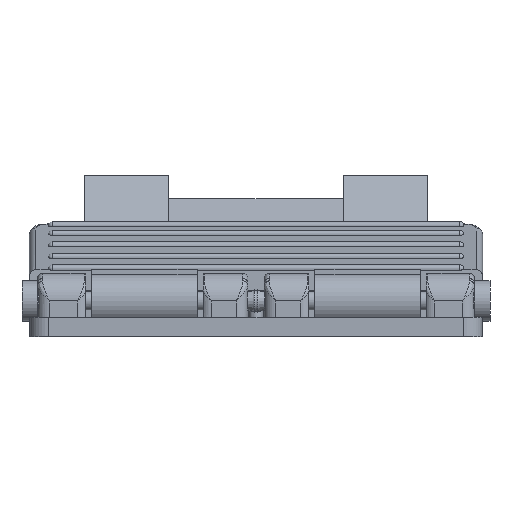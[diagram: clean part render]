
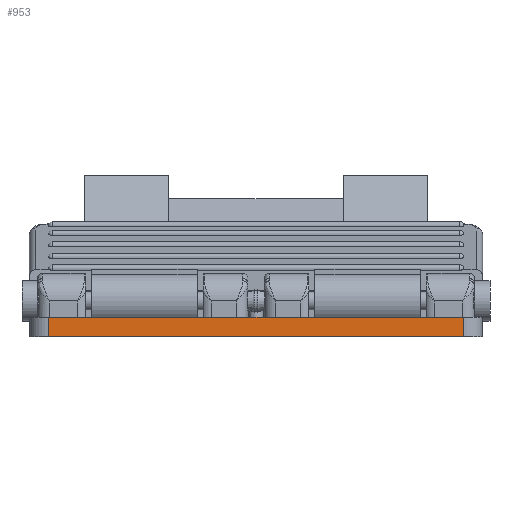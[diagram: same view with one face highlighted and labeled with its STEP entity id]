
A CAD part, front view. The second image highlights one B-rep face of the part: STEP entity #953.
In plain terms, the highlighted planar face has unit normal (0, -1, 0).
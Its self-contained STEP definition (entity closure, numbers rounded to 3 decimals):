
#63 = VERTEX_POINT('',#64);
#64 = CARTESIAN_POINT('',(-224.25,-120.,-7.25));
#71 = EDGE_CURVE('',#63,#72,#74,.T.);
#72 = VERTEX_POINT('',#73);
#73 = CARTESIAN_POINT('',(-160.25,-120.,-7.25));
#74 = LINE('',#75,#76);
#75 = CARTESIAN_POINT('',(-227.25,-120.,-7.25));
#76 = VECTOR('',#77,1.);
#77 = DIRECTION('',(1.,0.,-0.));
#588 = VERTEX_POINT('',#589);
#589 = CARTESIAN_POINT('',(-224.25,-120.,-10.25));
#596 = EDGE_CURVE('',#588,#597,#599,.T.);
#597 = VERTEX_POINT('',#598);
#598 = CARTESIAN_POINT('',(-160.25,-120.,-10.25));
#599 = LINE('',#600,#601);
#600 = CARTESIAN_POINT('',(-227.25,-120.,-10.25));
#601 = VECTOR('',#602,1.);
#602 = DIRECTION('',(1.,0.,-0.));
#910 = EDGE_CURVE('',#588,#63,#911,.T.);
#911 = LINE('',#912,#913);
#912 = CARTESIAN_POINT('',(-224.25,-120.,-10.25));
#913 = VECTOR('',#914,1.);
#914 = DIRECTION('',(0.,0.,1.));
#953 = ADVANCED_FACE('',(#954),#965,.F.);
#954 = FACE_BOUND('',#955,.F.);
#955 = EDGE_LOOP('',(#956,#957,#958,#959));
#956 = ORIENTED_EDGE('',*,*,#596,.F.);
#957 = ORIENTED_EDGE('',*,*,#910,.T.);
#958 = ORIENTED_EDGE('',*,*,#71,.T.);
#959 = ORIENTED_EDGE('',*,*,#960,.F.);
#960 = EDGE_CURVE('',#597,#72,#961,.T.);
#961 = LINE('',#962,#963);
#962 = CARTESIAN_POINT('',(-160.25,-120.,-10.25));
#963 = VECTOR('',#964,1.);
#964 = DIRECTION('',(0.,0.,1.));
#965 = PLANE('',#966);
#966 = AXIS2_PLACEMENT_3D('',#967,#968,#969);
#967 = CARTESIAN_POINT('',(-227.25,-120.,-10.25));
#968 = DIRECTION('',(-0.,1.,0.));
#969 = DIRECTION('',(0.,0.,1.));
